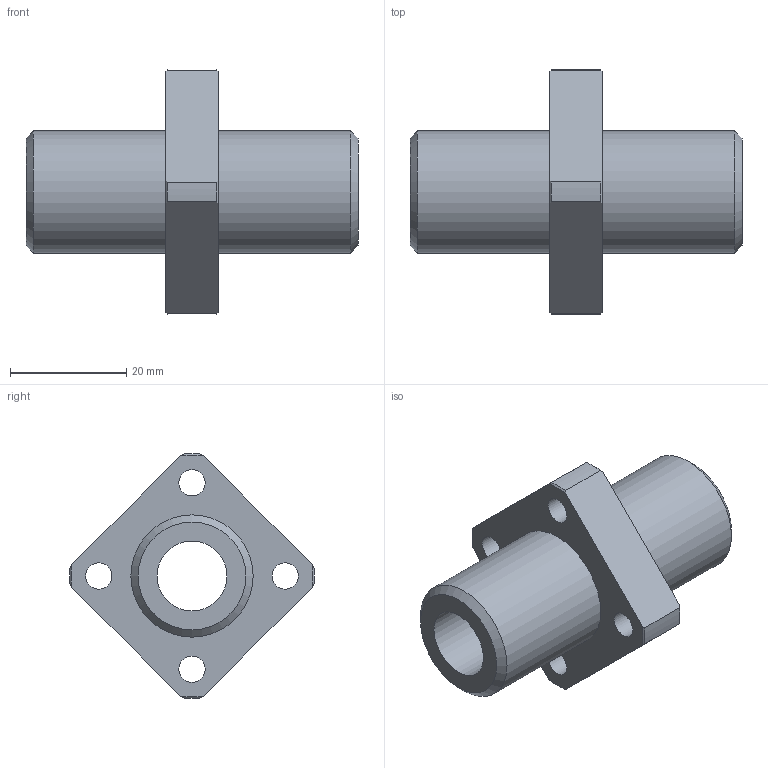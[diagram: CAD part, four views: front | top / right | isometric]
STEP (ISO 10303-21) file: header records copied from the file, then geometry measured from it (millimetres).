
FILE_DESCRIPTION(('STEP AP203'),'1');
FILE_NAME('//192.168.1.1/share/s-4 技術開発/s-4-4_CAD/s-4-4-3_見直し済み/PBC LINEAR修正済み/CFPJ/CFPJ_TOP/CFPJ/CFPJ12.step','2022-03-24T04:03:01',(' '),(' '),'Spatial InterOp 3D',' ',' ');
FILE_SCHEMA(('CONFIG_CONTROL_DESIGN'));
Length unit declared in the file: millimetre
Products named in the file (1): 1
Bounding box: 57 x 41.98 x 41.98 mm (x, y, z)
Volume: 18160.6 mm3; surface area: 8648.1 mm2
Topology: 1 solids, 1 shells, 37 faces, 92 edges, 63 vertices
Faces by surface type: cylinder 15, plane 12, cone 10
Full cylindrical faces by diameter (mm): 4.5 x4, 7.5 x4, 12 x1, 21 x2
Entity records: 1078 total; most frequent: CARTESIAN_POINT 214, DIRECTION 172, ORIENTED_EDGE 144, AXIS2_PLACEMENT_3D 78, EDGE_CURVE 72, EDGE_LOOP 66, VERTEX_POINT 56, FACE_OUTER_BOUND 48
